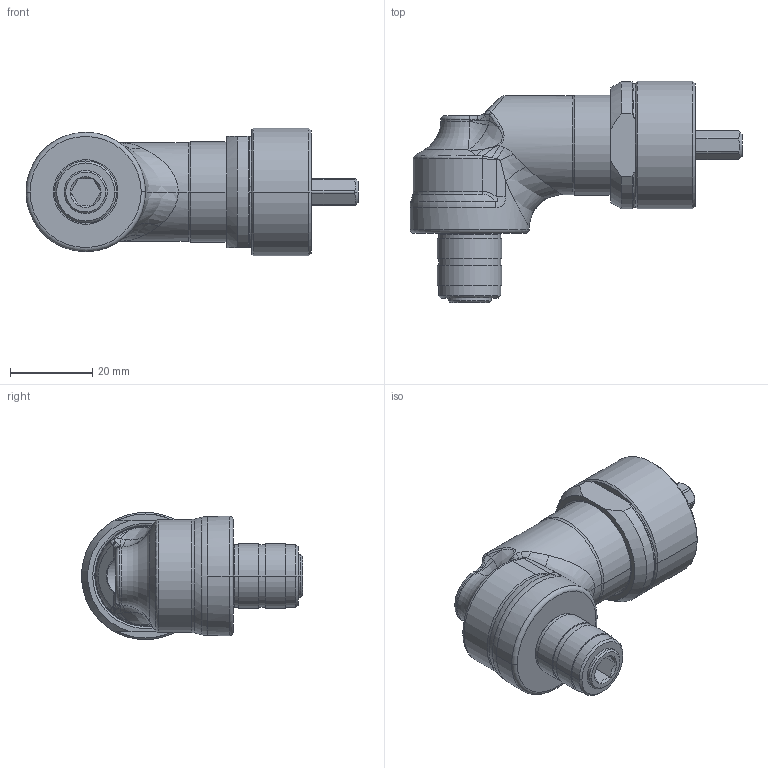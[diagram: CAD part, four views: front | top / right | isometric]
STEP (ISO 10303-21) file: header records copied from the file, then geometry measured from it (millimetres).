
FILE_DESCRIPTION((''),'2;1');
FILE_NAME('3602D97021_SW','2026-07-10T11:39:10',('WKR3KOR'),(''),'CREO PARAMETRIC BY PTC INC, 2025123','CREO PARAMETRIC BY PTC INC, 2025123','');
FILE_SCHEMA(('AP242_MANAGED_MODEL_BASED_3D_ENGINEERING_MIM_LF { 1 0 10303 442 1 1 4 }'));
Length unit declared in the file: millimetre
Products named in the file (1): 3602D97021_SW
Bounding box: 80.7 x 53.74 x 31 mm (x, y, z)
Volume: 36984.6 mm3; surface area: 13126.3 mm2
Topology: 2 solids, 2 shells, 288 faces, 696 edges, 424 vertices
Faces by surface type: bspline 73, plane 73, cylinder 62, cone 50, torus 30
Entity records: 20744 total; most frequent: CARTESIAN_POINT 10184, ORIENTED_EDGE 1388, DIRECTION 1209, PRESENTATION_STYLE_ASSIGNMENT 979, STYLED_ITEM 696, CURVE_STYLE 694, EDGE_CURVE 694, AXIS2_PLACEMENT_3D 513
